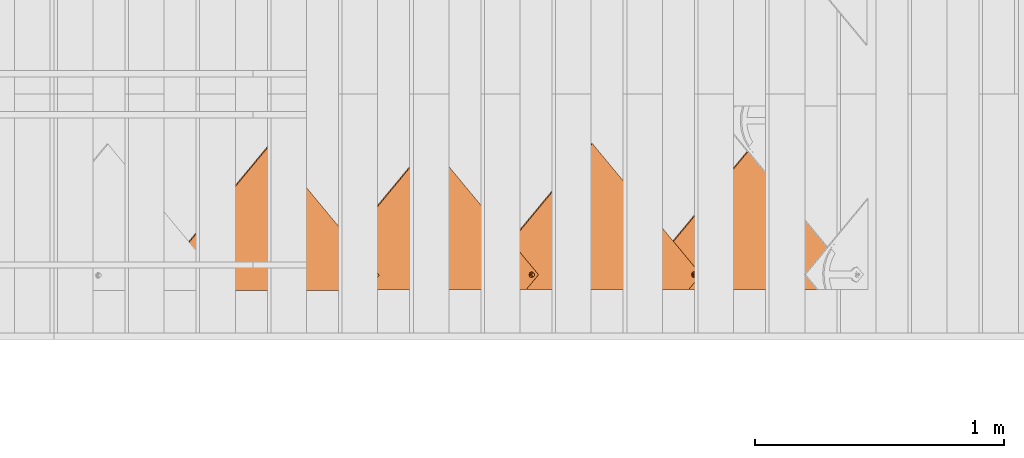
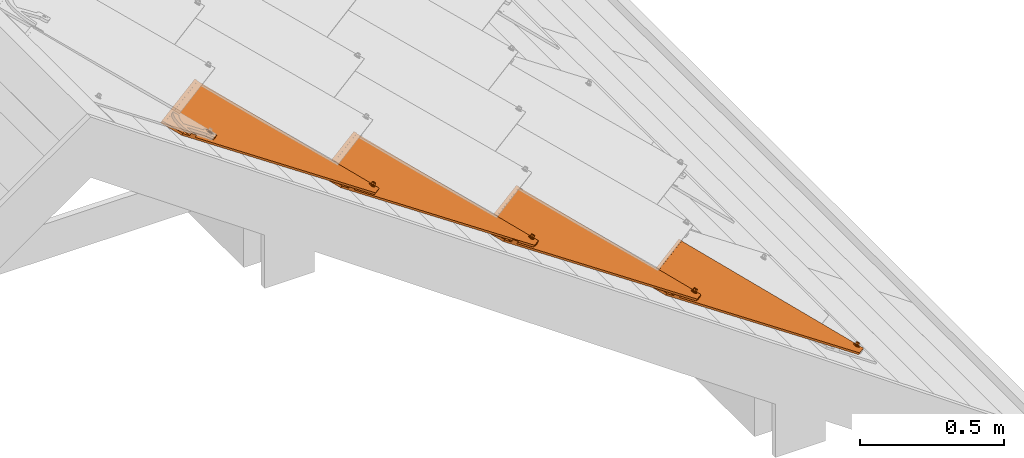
# One storey, part 16 of 133: 4 proxies.
"""IFC2X3 building model written with IfcOpenShell, lengths in millimetres."""

import ifcopenshell
import ifcopenshell.guid

model = None  # the IFC model being written
_history = None  # IfcOwnerHistory: only IFC2X3 demands one
_inside = {}  # id of a spatial element -> (the spatial element, [elements in it])
_under = {}  # id of a project, library or spatial element -> (it, [spatial elements below it])
_declared = {}  # id of a project -> (the project, [libraries it declares])
_typed = {}  # id of a type object -> (the type object, [elements of that type])
_made_of = {}  # id of a material, layer set ... -> (it, [elements and type objects made of it])


def new_model(schema):
    """Start an empty IFC model of exactly this schema.

    Asked for "IFC4X3", IfcOpenShell would pick the latest addendum, in which some entities
    have other attributes; the version numbers below select the first issue.
    IFC2X3 requires an IfcOwnerHistory on every rooted entity: one is made here for all.
    """
    global model, _history
    if schema == "IFC4X3":
        model = ifcopenshell.file(schema_version=(4, 3, 0, 0))
    else:
        model = ifcopenshell.file(schema=schema)
    _inside.clear()
    _under.clear()
    _declared.clear()
    _typed.clear()
    _made_of.clear()
    _history = None
    if model.schema == "IFC2X3":
        org = make("IfcOrganization", Name="unknown")
        user = make(
            "IfcPersonAndOrganization",
            ThePerson=make("IfcPerson", FamilyName="unknown"),
            TheOrganization=org,
        )
        app = make(
            "IfcApplication",
            ApplicationDeveloper=org,
            Version="unknown",
            ApplicationFullName="unknown",
            ApplicationIdentifier="unknown",
        )
        _history = make(
            "IfcOwnerHistory",
            OwningUser=user,
            OwningApplication=app,
            ChangeAction="ADDED",
            CreationDate=0,
        )
    return model


def make(cls, **values):
    """One entity of the class cls with the attributes given. An attribute that is None is left unset."""
    return model.create_entity(
        cls, **{name: value for name, value in values.items() if value is not None}
    )


def entity(cls, *values):
    """Any entity or typed value of the class cls, its attributes in the order of the schema. None: left unset."""
    e = model.create_entity(cls)
    for i, value in enumerate(values):
        if value is not None:
            e[i] = value
    return e


def rooted(cls, **values):
    """An entity with a GlobalId (a new one), such as an element, a storey or a relation."""
    return make(cls, GlobalId=ifcopenshell.guid.new(), OwnerHistory=_history, **values)


def si_unit(unit_type, name, prefix=None):
    """IfcSIUnit, for example si_unit("LENGTHUNIT", "METRE", prefix="MILLI")."""
    return make("IfcSIUnit", UnitType=unit_type, Prefix=prefix, Name=name)


def converted_unit(unit_type, name, factor, base, dimensions=None, offset=None):
    """IfcConversionBasedUnit, such as the inch: factor (a typed value) times the base unit."""
    return make(
        "IfcConversionBasedUnit"
        if offset is None
        else "IfcConversionBasedUnitWithOffset",
        ConversionOffset=offset,
        Dimensions=None
        if dimensions is None
        else entity("IfcDimensionalExponents", *dimensions),
        UnitType=unit_type,
        Name=name,
        ConversionFactor=make(
            "IfcMeasureWithUnit", ValueComponent=factor, UnitComponent=base
        ),
    )


def derived_unit(unit_type, elements):
    """IfcDerivedUnit: a product of units, each with its exponent."""
    return make(
        "IfcDerivedUnit",
        Elements=[
            make("IfcDerivedUnitElement", Unit=unit, Exponent=power)
            for unit, power in elements
        ],
        UnitType=unit_type,
    )


def assignment(units):
    """IfcUnitAssignment: the units of a project."""
    return None if units is None else make("IfcUnitAssignment", Units=units)


def point(xyz):
    """IfcCartesianPoint."""
    return None if xyz is None else make("IfcCartesianPoint", Coordinates=xyz)


def direction(xyz):
    """IfcDirection."""
    return None if xyz is None else make("IfcDirection", DirectionRatios=xyz)


def frame(location, z_axis=None, x_axis=None):
    """IfcAxis2Placement3D, a coordinate frame: its origin and axes. An axis left out is left unset."""
    return make(
        "IfcAxis2Placement3D",
        Location=point(location),
        Axis=direction(z_axis),
        RefDirection=direction(x_axis),
    )


def origin():
    """The frame at (0, 0, 0) with its axes left unset."""
    return frame((0.0, 0.0, 0.0))


def place(relative_to, where):
    """IfcLocalPlacement: puts the frame where relative to a parent placement (None: the world)."""
    return make(
        "IfcLocalPlacement", PlacementRelTo=relative_to, RelativePlacement=where
    )


def context(
    kind, dimensions, precision=None, world=None, true_north=None, identifier=None
):
    """IfcGeometricRepresentationContext, for example the 3D "Model" context."""
    return make(
        "IfcGeometricRepresentationContext",
        ContextIdentifier=identifier,
        ContextType=kind,
        CoordinateSpaceDimension=dimensions,
        Precision=precision,
        WorldCoordinateSystem=world,
        TrueNorth=true_north,
    )


def subcontext(parent, identifier, kind, view, scale=None):
    """IfcGeometricRepresentationSubContext, for example "Body" below "Model"."""
    return make(
        "IfcGeometricRepresentationSubContext",
        ContextIdentifier=identifier,
        ContextType=kind,
        ParentContext=parent,
        TargetScale=scale,
        TargetView=view,
    )


def project(units=None, contexts=None):
    """IfcProject with its units and contexts."""
    return rooted(
        "IfcProject",
        Name="project",
        RepresentationContexts=contexts,
        UnitsInContext=assignment(units),
    )


def spatial(cls, under=None, at=None, **own):
    """A site, building, storey or space (cls), placed at a placement, below another one or the project."""
    s = rooted(cls, ObjectPlacement=at, **own)
    if under is not None:
        _under.setdefault(under.id(), (under, []))[1].append(s)
    return s


def faces_of(points, faces, orient=None, outer=None):
    """IfcFace entities. A face is a list of loops; a loop is a list of indices into points, from 0.

    orient and outer hold one flag for each loop. By default every Orientation is true, the
    first loop of a face is its IfcFaceOuterBound and the others are IfcFaceBound.
    """
    made = []
    for i, loops in enumerate(faces):
        bounds = []
        for j, loop in enumerate(loops):
            is_outer = j == 0 if outer is None else outer[i][j]
            bounds.append(
                make(
                    "IfcFaceOuterBound" if is_outer else "IfcFaceBound",
                    Bound=make("IfcPolyLoop", Polygon=[points[k] for k in loop]),
                    Orientation=True if orient is None else orient[i][j],
                )
            )
        made.append(make("IfcFace", Bounds=bounds))
    return made


def faceted_brep(points, faces, orient=None, outer=None, voids=None):
    """IfcFacetedBrep: a solid bounded by flat faces; with voids (closed shells), ...WithVoids."""
    shared = [point(p) for p in points]
    hull = make("IfcClosedShell", CfsFaces=faces_of(shared, faces, orient, outer))
    if voids is None:
        return make("IfcFacetedBrep", Outer=hull)
    return make(
        "IfcFacetedBrepWithVoids",
        Outer=hull,
        Voids=[
            make(cls, CfsFaces=faces_of(shared, fs, o, b)) for cls, fs, o, b in voids
        ],
    )


def shape(context_of_items, identifier, shape_type, items):
    """IfcShapeRepresentation: the items that make up one representation, for example the "Body"."""
    return make(
        "IfcShapeRepresentation",
        ContextOfItems=context_of_items,
        RepresentationIdentifier=identifier,
        RepresentationType=shape_type,
        Items=items,
    )


def source(mapping_origin, context_of_items, identifier, shape_type, items):
    """IfcRepresentationMap: a shape defined once, which mapped items show again and again."""
    return make(
        "IfcRepresentationMap",
        MappingOrigin=mapping_origin,
        MappedRepresentation=shape(context_of_items, identifier, shape_type, items),
    )


def transform(
    local_origin,
    x_axis=None,
    y_axis=None,
    z_axis=None,
    scale=None,
    scale2=None,
    scale3=None,
    uniform=True,
):
    """IfcCartesianTransformationOperator3D, or its non-uniform kind. x_axis, y_axis, z_axis: its Axis1, 2, 3."""
    if uniform:
        return make(
            "IfcCartesianTransformationOperator3D",
            Axis1=direction(x_axis),
            Axis2=direction(y_axis),
            LocalOrigin=point(local_origin),
            Scale=scale,
            Axis3=direction(z_axis),
        )
    return make(
        "IfcCartesianTransformationOperator3DnonUniform",
        Axis1=direction(x_axis),
        Axis2=direction(y_axis),
        LocalOrigin=point(local_origin),
        Scale=scale,
        Axis3=direction(z_axis),
        Scale2=scale2,
        Scale3=scale3,
    )


def mapped(mapping_source, mapping_target):
    """IfcMappedItem: shows the shape of a source again, moved by a transform."""
    return make(
        "IfcMappedItem", MappingSource=mapping_source, MappingTarget=mapping_target
    )


def material(Name=None, Category=None):
    """IfcMaterial."""
    return make("IfcMaterial", Name=Name, Category=Category)


def material_list(materials):
    """IfcMaterialList."""
    return make("IfcMaterialList", Materials=materials)


def made_of(thing, what):
    """Note that an element or type object is made of a material, layer set ...; save() writes the relation."""
    if what is not None:
        _made_of.setdefault(what.id(), (what, []))[1].append(thing)
    return thing


def type_object(cls, material=None, **own):
    """A type object (cls), such as IfcWallType, which elements share."""
    return made_of(rooted(cls, **own), material)


def type_shapes(of_type, sources):
    """Give a type object the sources (RepresentationMaps) that its elements show as mapped items."""
    of_type.RepresentationMaps = sources


def element(
    cls,
    number,
    at=None,
    inside=None,
    cuts=None,
    type_object=None,
    material=None,
    context=None,
    identifier="Body",
    shape_type=None,
    held_by="IfcProductDefinitionShape",
    body=None,
    shapes=None,
    **own,
):
    """One element of the class cls, such as IfcWall. Its Tag is "e" and its number.

    at: its placement. inside: the storey or other place that contains it. cuts: it is an
    opening in that element (IfcRelVoidsElement). A single representation is given by context,
    identifier, shape_type and body (its items); several are given by shapes. held_by: the class
    of the entity that holds the representations. save() writes the other relations.
    """
    e = rooted(cls, Tag="e%d" % number, ObjectPlacement=at, **own)
    if body is not None:
        shapes = [shape(context, identifier, shape_type, body)]
    if shapes is not None:
        e.Representation = make(held_by, Representations=shapes)
    if inside is not None:
        _inside.setdefault(inside.id(), (inside, []))[1].append(e)
    if cuts is not None:
        rooted(
            "IfcRelVoidsElement", RelatingBuildingElement=cuts, RelatedOpeningElement=e
        )
    if type_object is not None:
        _typed.setdefault(type_object.id(), (type_object, []))[1].append(e)
    return made_of(e, material)


def aggregate(whole, parts):
    """IfcRelAggregates: a whole, such as a stair, and the parts it consists of."""
    return rooted("IfcRelAggregates", RelatingObject=whole, RelatedObjects=parts)


def save(model, path):
    """Write the relations noted so far, then the file.

    IfcRelAggregates (storeys below a building ...), IfcRelContainedInSpatialStructure (elements
    in a storey), IfcRelDefinesByType, IfcRelAssociatesMaterial and IfcRelDeclares: one each for
    every whole, place, type object, material and project.
    """
    for whole, parts in _under.values():
        aggregate(whole, parts)
    for where, things in _inside.values():
        rooted(
            "IfcRelContainedInSpatialStructure",
            RelatedElements=things,
            RelatingStructure=where,
        )
    for kind, things in _typed.values():
        rooted("IfcRelDefinesByType", RelatedObjects=things, RelatingType=kind)
    for what, things in _made_of.values():
        rooted("IfcRelAssociatesMaterial", RelatedObjects=things, RelatingMaterial=what)
    for by, libraries in _declared.values():
        rooted("IfcRelDeclares", RelatingContext=by, RelatedDefinitions=libraries)
    model.write(path)


model = new_model("IFC2X3")

# Units and contexts
model_context = context("Model", 3, precision=0.01, world=origin(), true_north=direction((6.12303176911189e-17, 1.0)))
body_context = subcontext(model_context, "Body", "Model", "MODEL_VIEW")
ifc_project = project(units=[si_unit("LENGTHUNIT", "METRE", prefix="MILLI"), si_unit("AREAUNIT", "SQUARE_METRE"), si_unit("VOLUMEUNIT", "CUBIC_METRE"), converted_unit("PLANEANGLEUNIT", "DEGREE", entity("IfcRatioMeasure", 0.0174532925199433), si_unit("PLANEANGLEUNIT", "RADIAN"), dimensions=[0, 0, 0, 0, 0, 0, 0]), si_unit("MASSUNIT", "GRAM", prefix="KILO"), derived_unit("MASSDENSITYUNIT", [(si_unit("MASSUNIT", "GRAM", prefix="KILO"), 1), (si_unit("LENGTHUNIT", "METRE"), -3)]), si_unit("TIMEUNIT", "SECOND"), si_unit("FREQUENCYUNIT", "HERTZ"), si_unit("THERMODYNAMICTEMPERATUREUNIT", "DEGREE_CELSIUS"), derived_unit("THERMALTRANSMITTANCEUNIT", [(si_unit("MASSUNIT", "GRAM", prefix="KILO"), 1), (si_unit("THERMODYNAMICTEMPERATUREUNIT", "KELVIN"), -1), (si_unit("TIMEUNIT", "SECOND"), -3)]), derived_unit("VOLUMETRICFLOWRATEUNIT", [(si_unit("LENGTHUNIT", "METRE"), 3), (si_unit("TIMEUNIT", "SECOND"), -1)]), si_unit("ELECTRICCURRENTUNIT", "AMPERE"), si_unit("ELECTRICVOLTAGEUNIT", "VOLT"), si_unit("POWERUNIT", "WATT"), si_unit("FORCEUNIT", "NEWTON", prefix="KILO"), si_unit("ILLUMINANCEUNIT", "LUX"), si_unit("LUMINOUSFLUXUNIT", "LUMEN"), si_unit("LUMINOUSINTENSITYUNIT", "CANDELA"), derived_unit("USERDEFINED", [(si_unit("MASSUNIT", "GRAM", prefix="KILO"), -1), (si_unit("LENGTHUNIT", "METRE"), -2), (si_unit("TIMEUNIT", "SECOND"), 3), (si_unit("LUMINOUSFLUXUNIT", "LUMEN"), 1)]), derived_unit("LINEARVELOCITYUNIT", [(si_unit("LENGTHUNIT", "METRE"), 1), (si_unit("TIMEUNIT", "SECOND"), -1)]), si_unit("PRESSUREUNIT", "PASCAL"), derived_unit("USERDEFINED", [(si_unit("LENGTHUNIT", "METRE"), -2), (si_unit("MASSUNIT", "GRAM", prefix="KILO"), 1), (si_unit("TIMEUNIT", "SECOND"), -2)])], contexts=[model_context])

# Site, building, storey
site_placement = place(None, origin())
site = spatial("IfcSite", under=ifc_project, at=site_placement, Name="Default", CompositionType="ELEMENT")
building_placement = place(site_placement, origin())
building = spatial("IfcBuilding", under=site, at=building_placement, CompositionType="ELEMENT")
storey_placement = place(building_placement, origin())
storey = spatial("IfcBuildingStorey", under=building, at=storey_placement, Name="Level 1", CompositionType="ELEMENT", Elevation=0.0)

# Proxies
ifc_material_1 = material(Name="Rubber - Sunstyle - Black")
ifc_material_2 = material(Name="Glass - Sunstyle - Tainted Black")
ifc_material_list_1 = material_list([ifc_material_1, ifc_material_2])
ifc_material_list_2 = material_list([ifc_material_1, ifc_material_2])
building_element_proxy_type = type_object("IfcBuildingElementProxyType", Name="Shingle Left - Black", PredefinedType="NOTDEFINED", material=ifc_material_list_2)
shared_shape = source(origin(), body_context, "Body", "Brep", [
    faceted_brep([(0.0, -484.792260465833, 4.00636906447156), (-5.77420283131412, -488.125530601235, 4.06219304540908), (-5.77420283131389, -487.757221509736, 26.0540623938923), (0.0, -484.423951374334, 25.9982384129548), (-5.77420283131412, -494.792070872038, 4.17384100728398), (-5.7742028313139, -494.42376178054, 26.1657103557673), (0.0, -498.12534100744, 4.22966498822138), (0.0, -497.757031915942, 26.2215343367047), (5.77420283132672, -494.792070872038, 4.17384100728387), (5.77420283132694, -494.42376178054, 26.1657103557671), (5.77420283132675, -488.125530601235, 4.06219304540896), (5.77420283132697, -487.757221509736, 26.0540623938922), (-8.60370416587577, -499.692989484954, 26.2539568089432), (0.0, -503.256260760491, 26.3136327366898), (-12.1674751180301, -491.090491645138, 26.1098863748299), (-8.60370416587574, -482.487993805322, 25.9658159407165), (0.0, -478.924722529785, 25.9061400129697), (8.60370416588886, -482.487993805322, 25.9658159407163), (12.1674751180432, -491.090491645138, 26.1098863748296), (8.60370416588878, -499.692989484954, 26.253956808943), (-11.324244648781, -488.795414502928, 28.4227283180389), (-9.75647455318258, -491.019476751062, 30.3502110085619), (0.0, -483.706401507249, 30.9829114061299), (0.0, -482.465903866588, 30.4025647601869), (0.0, -480.308353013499, 29.3931896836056), (0.0, -502.700216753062, 27.5886907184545), (0.0, -501.756640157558, 29.7523951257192), (0.0, -498.307264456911, 31.2274395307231), (0.0, -479.437758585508, 27.1991024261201), (-6.32324569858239, -494.657048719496, 31.1663074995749), (-6.32324569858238, -487.356617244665, 31.0440434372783), (11.3242446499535, -493.306834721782, 28.498283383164), (9.84888015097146, -492.093883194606, 30.2713428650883), (6.32324569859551, -487.356617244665, 31.0440434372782), (6.32324569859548, -494.657048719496, 31.1663074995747), (-6.32324569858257, -494.523020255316, 39.1691956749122), (0.0, -498.173235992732, 39.2303277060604), (0.0, -490.8728045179, 39.1080636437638), (-6.32324569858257, -487.222588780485, 39.0469316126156), (6.32324569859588, -494.523020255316, 39.1691956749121), (6.32324569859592, -487.222588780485, 39.0469316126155), (0.0, -483.572373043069, 38.9857995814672), (0.0, -491.458800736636, 4.11801702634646)], [[[0, 1, 2, 3]], [[1, 4, 5, 2]], [[4, 6, 7, 5]], [[6, 8, 9, 7]], [[8, 10, 11, 9]], [[10, 0, 3, 11]], [[12, 7, 13]], [[7, 12, 5]], [[14, 5, 12]], [[5, 14, 2]], [[15, 2, 14]], [[3, 2, 15]], [[15, 16, 3]], [[16, 17, 3]], [[11, 3, 17]], [[11, 17, 18]], [[9, 11, 18]], [[18, 19, 9]], [[7, 9, 19]], [[19, 13, 7]], [[20, 14, 12]], [[21, 22, 23, 24]], [[24, 20, 21]], [[25, 20, 12]], [[26, 27, 21]], [[15, 14, 20]], [[12, 13, 25]], [[20, 28, 15]], [[28, 20, 24]], [[21, 27, 29]], [[21, 29, 30]], [[26, 21, 20]], [[20, 25, 26]], [[15, 28, 16]], [[21, 30, 22]], [[31, 18, 17]], [[28, 31, 17]], [[32, 27, 26]], [[26, 31, 32]], [[26, 25, 31]], [[25, 19, 31]], [[17, 16, 28]], [[31, 19, 18]], [[24, 31, 28]], [[33, 34, 32]], [[23, 22, 33]], [[24, 32, 31]], [[27, 32, 34]], [[32, 23, 33]], [[19, 25, 13]], [[32, 24, 23]], [[35, 36, 37]], [[37, 38, 35]], [[36, 39, 37]], [[40, 37, 39]], [[37, 40, 41]], [[37, 41, 38]], [[42, 6, 4]], [[4, 1, 42]], [[1, 0, 42]], [[42, 8, 6]], [[0, 10, 42]], [[8, 42, 10]], [[22, 30, 38, 41]], [[30, 29, 35, 38]], [[29, 27, 36, 35]], [[27, 34, 39, 36]], [[34, 33, 40, 39]], [[33, 22, 41, 40]]]),
    faceted_brep([(0.0, 284.339364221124, 20.2838091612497), (0.0, 288.838732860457, 20.2084559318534), (-8.60370416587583, 287.902635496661, 20.224133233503), (8.60370416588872, 287.902635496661, 20.2241332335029), (6.64022859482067, 292.671933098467, 20.1442593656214), (12.1674751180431, 296.505133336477, 20.0800627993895), (6.64022859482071, 300.338333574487, 20.0158662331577), (8.6037041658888, 305.107631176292, 19.9359923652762), (0.0, 304.171533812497, 19.9516696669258), (0.0, 308.670902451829, 19.8763164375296), (-8.60370416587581, 305.107631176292, 19.9359923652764), (-6.64022859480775, 300.338333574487, 20.0158662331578), (-12.1674751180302, 296.505133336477, 20.0800627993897), (-6.64022859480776, 292.671933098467, 20.1442593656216), (-6.64022823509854, 300.070410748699, 4.01810959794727), (0.0, 303.90361077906, 3.95391303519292), (-6.64022823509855, 292.404010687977, 4.14650272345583), (0.0, 288.570810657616, 4.21069928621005), (6.64022823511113, 292.404010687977, 4.1465027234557), (6.64022823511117, 300.070410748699, 4.01810959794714), (-8.603704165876, 287.634712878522, 4.22637659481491), (0.0, 284.071441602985, 4.28605252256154), (-12.1674751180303, 296.237210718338, 4.08230616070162), (-8.60370416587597, 304.839708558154, 3.93823572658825), (0.0, 308.402979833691, 3.87855979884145), (8.60370416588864, 304.839708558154, 3.93823572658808), (12.1674751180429, 296.237210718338, 4.08230616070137), (8.60370416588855, 287.634712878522, 4.22637659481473)], [[[0, 1, 2]], [[1, 0, 3]], [[3, 4, 1]], [[4, 3, 5]], [[6, 4, 5]], [[5, 7, 6]], [[7, 8, 6]], [[8, 7, 9]], [[8, 9, 10]], [[10, 11, 8]], [[12, 11, 10]], [[2, 13, 12]], [[12, 13, 11]], [[13, 2, 1]], [[8, 11, 14, 15]], [[11, 13, 16, 14]], [[13, 1, 17, 16]], [[1, 4, 18, 17]], [[4, 6, 19, 18]], [[6, 8, 15, 19]], [[20, 17, 21]], [[17, 20, 16]], [[22, 16, 20]], [[14, 16, 22]], [[23, 14, 22]], [[15, 14, 23]], [[23, 24, 15]], [[24, 25, 15]], [[19, 15, 25]], [[19, 25, 26]], [[26, 18, 19]], [[26, 27, 18]], [[17, 18, 27]], [[27, 21, 17]], [[24, 23, 10, 9]], [[10, 23, 22, 12]], [[20, 21, 0, 2]], [[20, 2, 12, 22]], [[21, 27, 3, 0]], [[3, 27, 26, 5]], [[25, 24, 9, 7]], [[25, 7, 5, 26]]]),
    faceted_brep([(518.309865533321, -8.21171787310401, 16.4411500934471), (526.794551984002, 0.272968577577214, 16.299052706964), (526.794551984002, 0.298086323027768, 17.798842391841), (518.309865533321, -8.18660012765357, 17.9409397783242), (0.0, 509.952813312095, 7.76318349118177), (-51.6190674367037, 458.348219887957, 8.62743202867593), (-60.1037538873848, 466.832906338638, 8.48533464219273), (0.0, 526.919807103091, 7.47902856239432), (0.0, 526.944924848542, 8.97881824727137), (-60.1037538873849, 466.858024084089, 9.98512432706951), (-51.6190674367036, 458.373337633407, 10.1272217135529), (0.0, 509.977931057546, 9.26297317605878)], [[[0, 1, 2, 3]], [[1, 0, 4, 5, 6, 7]], [[2, 1, 7, 8]], [[3, 2, 8, 9, 10, 11]], [[0, 3, 11, 4]], [[5, 10, 9, 6]], [[8, 7, 6, 9]], [[4, 11, 10, 5]]]),
    faceted_brep([(3.08877637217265, 308.328619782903, 11.1398870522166), (0.0, 526.91980710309, 7.47902856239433), (-60.1037538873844, 466.832906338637, 8.48533464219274), (5.98294783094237, 307.129982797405, 11.1599612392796), (-0.0170521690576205, 308.737452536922, 11.133040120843), (8.46822920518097, 305.223226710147, 11.1918946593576), (10.3752526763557, 302.738293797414, 11.2335111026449), (11.5740577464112, 299.844528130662, 11.2819744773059), (526.794551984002, 0.272968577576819, 16.299052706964), (11.9829478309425, 296.739135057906, 11.3339820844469), (11.5740577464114, 293.63374198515, 11.3859896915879), (10.3752526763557, 290.739976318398, 11.4344530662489), (8.46822920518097, 288.255043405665, 11.4760695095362), (5.9829478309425, 286.348287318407, 11.5080029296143), (3.08877637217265, 285.149650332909, 11.5280771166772), (2.03352718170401, -483.329519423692, 24.3981910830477), (-60.1037538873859, -466.286969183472, 24.112770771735), (-0.0170521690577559, 284.74081757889, 11.5349240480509), (-3.12288071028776, 285.149650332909, 11.5280771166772), (-6.01705216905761, 286.348287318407, 11.5080029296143), (-8.50233354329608, 288.255043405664, 11.4760695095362), (-10.409357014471, 290.739976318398, 11.4344530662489), (-11.6081620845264, 293.63374198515, 11.3859896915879), (-12.0170521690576, 296.739135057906, 11.3339820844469), (-11.6081620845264, 299.844528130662, 11.2819744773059), (-10.4093570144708, 302.738293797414, 11.2335111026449), (-8.50233354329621, 305.223226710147, 11.1918946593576), (-6.01705216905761, 307.129982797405, 11.1599612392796), (-3.12288071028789, 308.328619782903, 11.1398870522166), (-0.0370251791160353, -483.056964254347, 24.3936264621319), (-2.10757753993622, -483.329519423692, 24.3981910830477), (-4.03702517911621, -484.128610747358, 24.411573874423), (-5.69387942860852, -485.399781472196, 24.4328628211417), (-6.96522840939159, -487.056403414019, 24.4606071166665), (-7.76443178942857, -488.985580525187, 24.4929160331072), (-8.03702517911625, -491.055842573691, 24.5275877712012), (-7.76443178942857, -493.126104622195, 24.5622595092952), (-6.96522840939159, -495.055281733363, 24.5945684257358), (0.0, -526.373869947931, 25.1190768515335), (-5.69387942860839, -496.711903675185, 24.6223127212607), (-4.03702517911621, -497.983074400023, 24.6436016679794), (-2.10757753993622, -498.782165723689, 24.6569844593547), (-0.0370251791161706, -499.054720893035, 24.6615490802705), (2.03352718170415, -498.782165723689, 24.6569844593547), (3.96297482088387, -497.983074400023, 24.6436016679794), (5.61982907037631, -496.711903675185, 24.6223127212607), (6.89117805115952, -495.055281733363, 24.5945684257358), (7.6903814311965, -493.126104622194, 24.5622595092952), (3.96297482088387, -484.128610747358, 24.411573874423), (5.61982907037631, -485.399781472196, 24.4328628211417), (6.89117805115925, -487.056403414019, 24.4606071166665), (7.6903814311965, -488.985580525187, 24.4929160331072), (7.96297482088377, -491.055842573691, 24.5275877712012), (-60.1037538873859, -466.412557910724, 16.6138223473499), (-6.96522840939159, -487.181992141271, 16.9616586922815), (-7.7644317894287, -489.111169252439, 16.9939676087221), (-5.69387942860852, -485.525370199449, 16.9339143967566), (-8.03702517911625, -491.181431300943, 17.0286393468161), (-7.76443178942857, -493.251693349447, 17.0633110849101), (-6.96522840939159, -495.180870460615, 17.0956200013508), (0.0, -526.499458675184, 17.6201284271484), (-4.03702517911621, -484.254199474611, 16.9126254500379), (-2.10757753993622, -483.455108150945, 16.8992426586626), (-0.0370251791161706, -483.182552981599, 16.8946780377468), (2.03352718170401, -483.455108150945, 16.8992426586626), (3.08877637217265, 285.024061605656, 4.02912869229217), (-0.0170521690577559, 284.615228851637, 4.03597562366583), (-3.12288071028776, 285.024061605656, 4.02912869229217), (-6.01705216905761, 286.222698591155, 4.00905450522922), (-8.50233354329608, 288.129454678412, 3.97712108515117), (-10.409357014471, 290.614387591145, 3.93550464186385), (-11.6081620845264, 293.508153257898, 3.88704126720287), (-60.1037538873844, 466.707317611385, 0.986386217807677), (-12.0170521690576, 296.613546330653, 3.83503366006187), (-11.6081620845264, 299.718939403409, 3.78302605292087), (-10.4093570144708, 302.612705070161, 3.73456267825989), (-8.50233354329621, 305.097637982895, 3.69294623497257), (-6.01705216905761, 307.004394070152, 3.66101281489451), (-3.12288071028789, 308.203031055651, 3.64093862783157), (-0.0170521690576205, 308.61186380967, 3.63409169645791), (3.08877637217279, 308.203031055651, 3.64093862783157), (0.0, 526.794218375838, -0.0199198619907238), (5.98294783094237, 307.004394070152, 3.66101281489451), (8.46822920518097, 305.097637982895, 3.69294623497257), (10.3752526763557, 302.612705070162, 3.73456267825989), (11.5740577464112, 299.718939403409, 3.78302605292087), (526.794551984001, 0.147379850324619, 8.8001042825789), (3.96297482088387, -484.254199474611, 16.9126254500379), (5.61982907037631, -485.525370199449, 16.9339143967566), (7.6903814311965, -493.251693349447, 17.0633110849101), (7.96297482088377, -491.181431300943, 17.0286393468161), (7.6903814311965, -489.111169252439, 16.9939676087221), (6.89117805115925, -487.181992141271, 16.9616586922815), (5.9829478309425, 286.222698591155, 4.00905450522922), (8.46822920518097, 288.129454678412, 3.97712108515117), (11.9829478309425, 296.613546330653, 3.83503366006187), (11.5740577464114, 293.508153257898, 3.88704126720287), (10.3752526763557, 290.614387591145, 3.93550464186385), (-5.69387942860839, -496.837492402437, 17.1233642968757), (-4.03702517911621, -498.108663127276, 17.1446532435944), (-2.10757753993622, -498.907754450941, 17.1580360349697), (-0.0370251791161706, -499.180309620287, 17.1626006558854), (2.03352718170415, -498.907754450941, 17.1580360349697), (3.96297482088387, -498.108663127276, 17.1446532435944), (5.61982907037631, -496.837492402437, 17.1233642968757), (6.89117805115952, -495.180870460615, 17.0956200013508)], [[[0, 1, 2]], [[0, 3, 1]], [[4, 0, 2]], [[1, 3, 5]], [[6, 1, 5]], [[7, 1, 6]], [[7, 8, 1]], [[9, 8, 7]], [[8, 9, 10]], [[8, 10, 11]], [[11, 12, 8]], [[12, 13, 8]], [[13, 14, 8]], [[14, 15, 8]], [[14, 16, 15]], [[16, 14, 17]], [[16, 17, 18]], [[16, 18, 19]], [[20, 16, 19]], [[20, 21, 16]], [[21, 22, 16]], [[23, 2, 22]], [[2, 16, 22]], [[23, 24, 2]], [[25, 2, 24]], [[25, 26, 2]], [[26, 27, 2]], [[28, 2, 27]], [[4, 2, 28]], [[16, 29, 15]], [[29, 16, 30]], [[30, 16, 31]], [[16, 32, 31]], [[32, 16, 33]], [[33, 16, 34]], [[35, 34, 16]], [[35, 16, 36]], [[37, 36, 16]], [[16, 38, 37]], [[39, 37, 38]], [[40, 39, 38]], [[41, 40, 38]], [[38, 42, 41]], [[42, 38, 43]], [[44, 43, 38]], [[44, 38, 45]], [[46, 45, 38]], [[47, 46, 38]], [[47, 38, 8]], [[48, 8, 15]], [[48, 49, 8]], [[50, 8, 49]], [[51, 8, 50]], [[52, 47, 8]], [[52, 8, 51]], [[53, 54, 55]], [[54, 53, 56]], [[53, 55, 57]], [[57, 58, 53]], [[58, 59, 53]], [[53, 59, 60]], [[61, 56, 53]], [[62, 61, 53]], [[62, 53, 63]], [[64, 63, 53]], [[53, 65, 64]], [[65, 53, 66]], [[66, 53, 67]], [[67, 53, 68]], [[69, 68, 53]], [[70, 69, 53]], [[71, 70, 53]], [[71, 53, 72]], [[73, 71, 72]], [[74, 73, 72]], [[75, 74, 72]], [[76, 75, 72]], [[72, 77, 76]], [[78, 77, 72]], [[79, 78, 72]], [[79, 72, 80]], [[80, 72, 81]], [[82, 80, 81]], [[81, 83, 82]], [[83, 81, 84]], [[84, 81, 85]], [[86, 85, 81]], [[64, 86, 87]], [[88, 87, 86]], [[60, 89, 86]], [[90, 86, 89]], [[90, 91, 86]], [[91, 92, 86]], [[88, 86, 92]], [[65, 86, 64]], [[65, 93, 86]], [[93, 94, 86]], [[86, 95, 85]], [[95, 86, 96]], [[97, 96, 86]], [[97, 86, 94]], [[98, 60, 59]], [[98, 99, 60]], [[99, 100, 60]], [[101, 60, 100]], [[60, 101, 102]], [[60, 102, 103]], [[103, 104, 60]], [[104, 105, 60]], [[105, 89, 60]], [[2, 1, 81, 72]], [[38, 16, 53, 60]], [[8, 38, 60, 86]], [[1, 8, 86, 81]], [[35, 57, 55, 34]], [[34, 55, 54, 33]], [[31, 32, 56, 61]], [[56, 32, 33, 54]], [[30, 31, 61, 62]], [[30, 62, 63, 29]], [[29, 63, 64, 15]], [[15, 64, 87, 48]], [[50, 49, 88, 92]], [[88, 49, 48, 87]], [[51, 50, 92, 91]], [[51, 91, 90, 52]], [[52, 90, 89, 47]], [[47, 89, 105, 46]], [[44, 45, 104, 103]], [[104, 45, 46, 105]], [[43, 44, 103, 102]], [[43, 102, 101, 42]], [[42, 101, 100, 41]], [[41, 100, 99, 40]], [[37, 39, 98, 59]], [[98, 39, 40, 99]], [[36, 37, 59, 58]], [[36, 58, 57, 35]], [[23, 73, 74, 24]], [[24, 74, 75, 25]], [[27, 26, 76, 77]], [[76, 26, 25, 75]], [[28, 27, 77, 78]], [[28, 78, 79, 4]], [[4, 79, 80, 0]], [[0, 80, 82, 3]], [[6, 5, 83, 84]], [[83, 5, 3, 82]], [[7, 6, 84, 85]], [[7, 85, 95, 9]], [[9, 95, 96, 10]], [[10, 96, 97, 11]], [[13, 12, 94, 93]], [[94, 12, 11, 97]], [[14, 13, 93, 65]], [[14, 65, 66, 17]], [[17, 66, 67, 18]], [[18, 67, 68, 19]], [[21, 20, 69, 70]], [[69, 20, 19, 68]], [[22, 21, 70, 71]], [[22, 71, 73, 23]], [[16, 2, 72, 53]]]),
    faceted_brep([(-60.2957264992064, 433.002673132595, 19.0533091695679), (-60.2957264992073, 406.276440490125, 19.5009070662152), (-37.4519584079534, 414.732964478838, 19.3592813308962), (-27.2461400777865, 442.315205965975, 18.8973474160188), (-13.4919726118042, 419.124350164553, 19.2857365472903), (7.02526451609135, 444.434715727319, 18.8618509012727), (13.1080273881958, 419.12435016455, 19.2857365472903), (13.1080273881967, 322.716549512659, 20.9003273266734), (-13.4919726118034, 322.716549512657, 20.9003273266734), (-0.191972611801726, 308.510747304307, 21.1382391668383), (-3.29780115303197, 308.101914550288, 21.145086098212), (-6.19197261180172, 306.90327756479, 21.1651602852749), (-18.8960787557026, 319.178501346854, 20.9595808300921), (-8.67725398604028, 304.996521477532, 21.197093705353), (-23.3966230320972, 314.545495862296, 21.0371721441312), (-10.584277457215, 302.511588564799, 21.2387101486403), (-26.776192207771, 309.041345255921, 21.1293529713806), (-11.7830825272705, 299.617822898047, 21.2871735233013), (-28.8715253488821, 302.931945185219, 21.231670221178), (-12.1919726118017, 296.512429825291, 21.3391811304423), (-29.5814006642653, 296.512429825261, 21.3391811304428), (-11.7830825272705, 293.407036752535, 21.3911887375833), (-10.5842774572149, 290.513271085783, 21.4396521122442), (-8.67725398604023, 288.028338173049, 21.4812685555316), (-0.191972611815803, 267.127122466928, 21.8313119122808), (-6.19197261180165, 286.121582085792, 21.5132019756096), (-3.2978011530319, 284.922945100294, 21.5332761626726), (-0.19197261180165, 284.514112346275, 21.5401230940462), (2.9138559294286, 284.922945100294, 21.5332761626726), (5.80802738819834, 286.121582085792, 21.5132019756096), (8.29330876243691, 288.028338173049, 21.4812685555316), (29.197455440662, 296.512429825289, 21.3391811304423), (10.2003322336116, 290.513271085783, 21.4396521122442), (11.3991373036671, 293.407036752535, 21.3911887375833), (11.8080273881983, 296.512429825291, 21.3391811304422), (28.4875801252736, 302.931945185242, 21.2316702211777), (11.3991373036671, 299.617822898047, 21.2871735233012), (26.3922469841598, 309.041345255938, 21.1293529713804), (10.2003322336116, 302.511588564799, 21.2387101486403), (23.0126778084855, 314.545495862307, 21.037172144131), (8.29330876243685, 304.996521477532, 21.197093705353), (18.5121335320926, 319.178501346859, 20.959580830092), (5.80802738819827, 306.90327756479, 21.1651602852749), (2.91385592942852, 308.101914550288, 21.145086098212), (40.9707248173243, 439.265481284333, 18.9484227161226), (38.5777701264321, 414.309469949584, 19.3663738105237), (73.0571986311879, 427.0409551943, 19.1531531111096), (62.7323605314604, 404.905836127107, 19.523861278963), (84.7524233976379, 391.232440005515, 19.7528566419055), (101.835599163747, 408.313220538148, 19.4667960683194), (-10.5842774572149, 290.345819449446, 11.4410542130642), (-29.5814006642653, 296.344978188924, 11.3405832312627), (-11.7830825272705, 293.239585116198, 11.3925908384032), (-8.67725398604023, 287.860886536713, 11.4826706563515), (-0.191972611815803, 266.959670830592, 11.8327140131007), (-6.19197261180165, 285.954130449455, 11.5146040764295), (-3.2978011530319, 284.755493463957, 11.5346782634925), (-0.19197261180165, 284.346660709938, 11.5415251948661), (2.9138559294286, 284.755493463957, 11.5346782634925), (5.80802738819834, 285.954130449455, 11.5146040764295), (8.29330876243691, 287.860886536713, 11.4826706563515), (29.197455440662, 296.344978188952, 11.3405832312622), (10.2003322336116, 290.345819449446, 11.4410542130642), (11.3991373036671, 293.239585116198, 11.3925908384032), (11.8080273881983, 296.344978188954, 11.3405832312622), (28.4875801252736, 302.764493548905, 11.2330723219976), (11.3991373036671, 299.45037126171, 11.2885756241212), (26.3922469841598, 308.873893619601, 11.1307550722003), (10.2003322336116, 302.344136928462, 11.2401122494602), (23.0126778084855, 314.378044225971, 11.038574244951), (8.29330876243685, 304.829069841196, 11.1984958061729), (18.5121335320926, 319.011049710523, 10.960982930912), (5.80802738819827, 306.735825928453, 11.1665623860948), (13.1080273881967, 322.549097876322, 10.9017294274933), (2.91385592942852, 307.934462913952, 11.1464881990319), (-0.191972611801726, 308.34329566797, 11.1396412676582), (-13.4919726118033, 322.54909787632, 10.9017294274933), (-3.29780115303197, 307.934462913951, 11.1464881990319), (-6.19197261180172, 306.735825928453, 11.1665623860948), (-18.8960787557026, 319.011049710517, 10.9609829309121), (-8.67725398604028, 304.829069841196, 11.1984958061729), (-23.3966230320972, 314.37804422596, 11.0385742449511), (-10.584277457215, 302.344136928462, 11.2401122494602), (-26.776192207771, 308.873893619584, 11.1307550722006), (-11.7830825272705, 299.45037126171, 11.2885756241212), (-28.8715253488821, 302.764493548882, 11.233072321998), (-12.1919726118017, 296.344978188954, 11.3405832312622), (-13.4919726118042, 418.956898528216, 9.28713864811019), (13.1080273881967, 418.956898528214, 9.28713864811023), (7.02526451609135, 444.267264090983, 8.86325300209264), (-27.2461400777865, 442.147754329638, 8.89874951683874), (-37.4519584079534, 414.565512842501, 9.36068343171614), (-60.2957264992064, 432.835221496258, 9.05471127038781), (-60.2957264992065, 406.108988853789, 9.5023091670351), (40.9707248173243, 439.098029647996, 8.94982481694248), (38.5777701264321, 414.142018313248, 9.36777591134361), (73.0571986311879, 426.873503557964, 9.15455521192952), (62.7323605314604, 404.738384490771, 9.5252633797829), (84.9699227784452, 391.282457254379, 9.75061668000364), (101.363550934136, 407.672574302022, 9.47612300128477), (101.835599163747, 408.145768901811, 9.46819816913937), (107.666988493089, 402.274283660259, 9.56653093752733), (113.684870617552, 396.559480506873, 9.66223967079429), (108.027097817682, 368.228515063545, 10.1367128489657), (125.024248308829, 385.223282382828, 9.85209278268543), (84.7524233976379, 391.064988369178, 9.75425874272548), (125.024248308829, 385.265145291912, 12.3517422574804), (113.684870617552, 396.601343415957, 12.1618891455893), (107.666988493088, 402.316146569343, 12.0661804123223), (101.362944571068, 407.715043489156, 11.975762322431), (84.9693798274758, 391.324863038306, 12.2502570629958), (108.027097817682, 368.270377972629, 12.6363623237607)], [[[0, 1, 2]], [[0, 2, 3]], [[2, 4, 3]], [[3, 4, 5]], [[5, 4, 6]], [[7, 6, 4]], [[7, 4, 8]], [[9, 7, 8]], [[9, 8, 10]], [[10, 8, 11]], [[12, 11, 8]], [[11, 12, 13]], [[14, 13, 12]], [[13, 14, 15]], [[15, 14, 16]], [[17, 15, 16]], [[18, 17, 16]], [[18, 19, 17]], [[19, 18, 20]], [[20, 21, 19]], [[20, 22, 21]], [[22, 20, 23]], [[23, 20, 24]], [[24, 25, 23]], [[26, 25, 24]], [[24, 27, 26]], [[28, 27, 24]], [[28, 24, 29]], [[30, 29, 24]], [[30, 24, 31]], [[31, 32, 30]], [[33, 32, 31]], [[31, 34, 33]], [[35, 34, 31]], [[34, 35, 36]], [[36, 35, 37]], [[36, 37, 38]], [[38, 37, 39]], [[39, 40, 38]], [[39, 41, 40]], [[7, 42, 41]], [[40, 41, 42]], [[42, 7, 43]], [[43, 7, 9]], [[44, 5, 6]], [[44, 6, 45]], [[45, 46, 44]], [[46, 45, 47]], [[47, 48, 46]], [[49, 46, 48]], [[50, 51, 52]], [[51, 50, 53]], [[54, 51, 53]], [[53, 55, 54]], [[56, 54, 55]], [[57, 54, 56]], [[57, 58, 54]], [[58, 59, 54]], [[60, 54, 59]], [[60, 61, 54]], [[60, 62, 61]], [[62, 63, 61]], [[63, 64, 61]], [[64, 65, 61]], [[65, 64, 66]], [[66, 67, 65]], [[68, 67, 66]], [[67, 68, 69]], [[69, 68, 70]], [[71, 69, 70]], [[71, 70, 72]], [[72, 73, 71]], [[72, 74, 73]], [[75, 73, 74]], [[76, 73, 75]], [[77, 76, 75]], [[76, 77, 78]], [[79, 76, 78]], [[78, 80, 79]], [[81, 79, 80]], [[81, 80, 82]], [[81, 82, 83]], [[82, 84, 83]], [[84, 85, 83]], [[86, 85, 84]], [[52, 51, 86]], [[85, 86, 51]], [[73, 76, 87]], [[88, 73, 87]], [[88, 87, 89]], [[90, 89, 87]], [[87, 91, 90]], [[91, 92, 90]], [[93, 92, 91]], [[88, 89, 94]], [[88, 94, 95]], [[96, 95, 94]], [[96, 97, 95]], [[98, 97, 96]], [[96, 99, 98]], [[96, 100, 99]], [[98, 99, 101]], [[102, 98, 101]], [[98, 102, 103]], [[104, 103, 102]], [[105, 97, 98]], [[8, 4, 87, 76]], [[12, 8, 76, 79]], [[14, 12, 79, 81]], [[81, 83, 16, 14]], [[18, 16, 83, 85]], [[20, 18, 85, 51]], [[24, 20, 51, 54]], [[31, 24, 54, 61]], [[35, 31, 61, 65]], [[37, 35, 65, 67]], [[67, 69, 39, 37]], [[41, 39, 69, 71]], [[7, 41, 71, 73]], [[6, 7, 73, 88]], [[46, 49, 100, 96]], [[44, 46, 96, 94]], [[94, 89, 5, 44]], [[3, 5, 89, 90]], [[3, 90, 92, 0]], [[19, 86, 84, 17]], [[17, 84, 82, 15]], [[11, 13, 80, 78]], [[82, 80, 13, 15]], [[10, 11, 78, 77]], [[75, 9, 10, 77]], [[43, 74, 72, 42]], [[42, 72, 70, 40]], [[36, 38, 68, 66]], [[70, 68, 38, 40]], [[34, 36, 66, 64]], [[43, 9, 75, 74]], [[34, 64, 63, 33]], [[33, 63, 62, 32]], [[29, 30, 60, 59]], [[62, 60, 30, 32]], [[28, 29, 59, 58]], [[57, 27, 28, 58]], [[26, 56, 55, 25]], [[25, 55, 53, 23]], [[21, 22, 50, 52]], [[53, 50, 22, 23]], [[19, 21, 52, 86]], [[26, 27, 57, 56]], [[106, 107, 108, 109, 110, 111]], [[107, 106, 104, 102]], [[106, 111, 103, 104]], [[107, 102, 101, 108]], [[101, 99, 109]], [[101, 109, 108]], [[111, 110, 98, 103]], [[48, 110, 109]], [[110, 48, 105]], [[49, 48, 109, 100]], [[105, 98, 110]], [[99, 100, 109]], [[93, 91, 2, 1]], [[87, 4, 2, 91]], [[88, 95, 45, 6]], [[95, 97, 47, 45]], [[97, 105, 48, 47]], [[1, 0, 92, 93]]]),
])
type_shapes(building_element_proxy_type, [shared_shape])
proxy_1_placement = place(storey_placement, frame((2066.80329979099, -6470.99532294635, 2228.32380202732), z_axis=(0.573576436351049, 0.0, 0.81915204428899), x_axis=(0.0, 1.0, 0.0)))
element("IfcBuildingElementProxy", 1, at=proxy_1_placement, inside=storey, type_object=building_element_proxy_type, material=ifc_material_list_1, Name="Roofing_Panels_SunStyle_Tile_Shingle-Left:Shingle Left - Black", ObjectType="Roofing_Panels_SunStyle_Tile_Shingle-Left:Shingle Left - Black", context=body_context, shape_type="MappedRepresentation", body=[
    mapped(shared_shape, transform((0.0, 0.0, 0.0), scale=1.0)),
])
ifc_material_list_3 = material_list([ifc_material_1, ifc_material_2])
proxy_2_placement = place(storey_placement, frame((2706.29062215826, -6468.49532294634, 1780.54995831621), z_axis=(0.573576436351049, 0.0, 0.81915204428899), x_axis=(0.0, 1.0, 0.0)))
element("IfcBuildingElementProxy", 2, at=proxy_2_placement, inside=storey, type_object=building_element_proxy_type, material=ifc_material_list_3, Name="Roofing_Panels_SunStyle_Tile_Shingle-Left:Shingle Left - Black", ObjectType="Roofing_Panels_SunStyle_Tile_Shingle-Left:Shingle Left - Black", context=body_context, shape_type="MappedRepresentation", body=[
    mapped(shared_shape, transform((0.0, 0.0, 0.0), scale=1.0)),
])
ifc_material_list_4 = material_list([ifc_material_1, ifc_material_2])
proxy_3_placement = place(storey_placement, frame((3358.22258800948, -6468.43178472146, 1324.06228142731), z_axis=(0.573576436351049, 0.0, 0.81915204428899), x_axis=(0.0, 1.0, 0.0)))
element("IfcBuildingElementProxy", 3, at=proxy_3_placement, inside=storey, type_object=building_element_proxy_type, material=ifc_material_list_4, Name="Roofing_Panels_SunStyle_Tile_Shingle-Left:Shingle Left - Black", ObjectType="Roofing_Panels_SunStyle_Tile_Shingle-Left:Shingle Left - Black", context=body_context, shape_type="MappedRepresentation", body=[
    mapped(shared_shape, transform((0.0, 0.0, 0.0), scale=1.0)),
])
ifc_material_list_5 = material_list([ifc_material_1, ifc_material_2])
proxy_4_placement = place(storey_placement, frame((4010.07779869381, -6467.93205658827, 867.628349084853), z_axis=(0.573576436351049, 0.0, 0.81915204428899), x_axis=(0.0, 1.0, 0.0)))
element("IfcBuildingElementProxy", 4, at=proxy_4_placement, inside=storey, type_object=building_element_proxy_type, material=ifc_material_list_5, Name="Roofing_Panels_SunStyle_Tile_Shingle-Left:Shingle Left - Black", ObjectType="Roofing_Panels_SunStyle_Tile_Shingle-Left:Shingle Left - Black", context=body_context, shape_type="MappedRepresentation", body=[
    mapped(shared_shape, transform((0.0, 0.0, 0.0), scale=1.0)),
])

save(model, "model.ifc")
